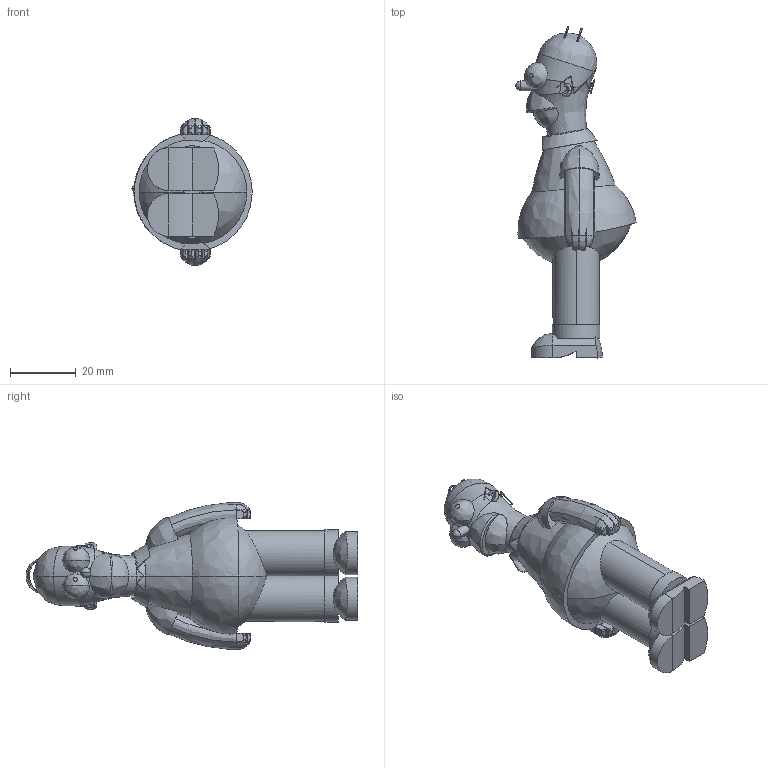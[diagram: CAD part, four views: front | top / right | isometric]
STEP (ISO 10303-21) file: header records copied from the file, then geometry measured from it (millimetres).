
FILE_DESCRIPTION (( 'STEP AP214' ), '1' );
FILE_NAME ('Hommer.STEP', '2015-01-13T09:39:39', ( 'jakubiv' ), ( '' ), 'SwSTEP 2.0', 'SolidWorks 2014', '' );
FILE_SCHEMA (( 'AUTOMOTIVE_DESIGN' ));
Length unit declared in the file: millimetre
Products named in the file (1): Hommer
Bounding box: 36.44 x 100.62 x 44.6 mm (x, y, z)
Surface area: 10962.3 mm2 (no closed solid volume)
Topology: 0 solids, 103 shells, 268 faces, 981 edges, 793 vertices
Faces by surface type: bspline 116, cylinder 67, plane 63, cone 22
Entity records: 21514 total; most frequent: CARTESIAN_POINT 11723, ORIENTED_EDGE 1384, DIRECTION 1077, EDGE_CURVE 957, VERTEX_POINT 793, AXIS2_PLACEMENT_3D 443, B_SPLINE_CURVE_WITH_KNOTS 414, CIRCLE 290
